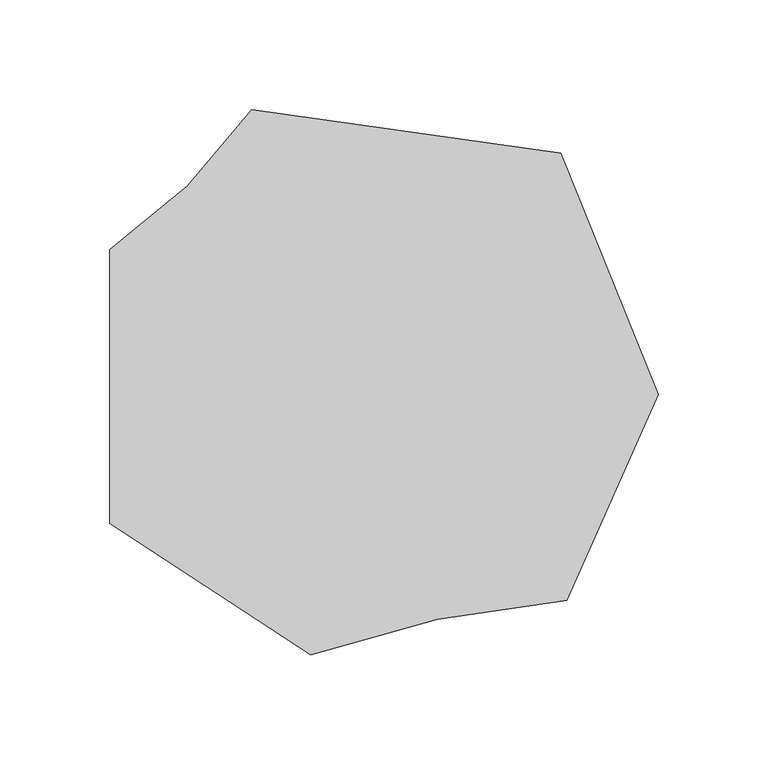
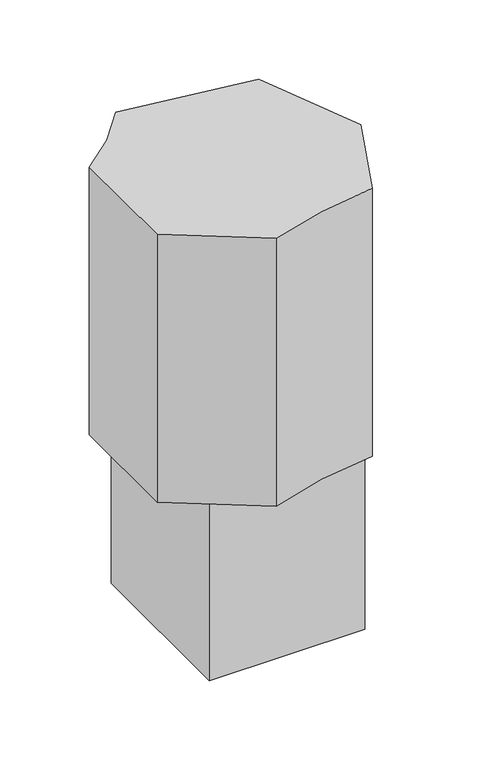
"""IFC4 building model written with IfcOpenShell, lengths in millimetres: furniture geometry, Norr11 - Quartz Table : Norr11 - Quartz Table."""

from ifc_helpers import new_model, si_unit, point, frame, frame_2d, origin, origin_with_axes, place, context, project, spatial, polyline, circle_curve, trimmed, segment, composite_curve, outline, extrude, source, transform, mapped, element, save


def furniture_6fb1302f(model_context):
    return source(origin(), model_context, "Body", "SweptSolid", [
        extrude(outline(composite_curve([segment(trimmed(circle_curve(frame_2d((833.1001509, 344.3353988)), 790.0285553), [point((80.492051, 104.0726963))], [point((124.8186931, -5.639593))], True, "CARTESIAN"), True, "CONTINUOUS"), segment(polyline([(124.8186931, -5.639593), (83.2384995, -99.4201688)]), True, "CONTINUOUS"), segment(trimmed(circle_curve(frame_2d((120.7133328, -561.7864366)), 463.8824514), [point((83.2384995, -99.4201688))], [point((-33.1130071, -124.151445))], True, "CARTESIAN"), True, "CONTINUOUS"), segment(polyline([(-33.1130071, -124.151445), (-124.5113932, -64.4347129)]), True, "CONTINUOUS"), segment(trimmed(circle_curve(frame_2d((-1503.8298895, -2.153796)), 1380.7238778), [point((-124.5113932, -64.4347129))], [point((-124.5113932, 60.1271209))], True, "CARTESIAN"), True, "CONTINUOUS"), segment(trimmed(circle_curve(frame_2d((-268.8495483, 271.1166992)), 255.6366663), [point((-124.5113932, 60.1271209))], [point((-59.9217306, 123.809971))], True, "CARTESIAN"), True, "CONTINUOUS"), segment(trimmed(circle_curve(frame_2d((104.5869334, 784.8175688)), 681.1711568), [point((-59.9217306, 123.809971))], [point((80.492051, 104.0726963))], True, "CARTESIAN"), True, "CONTINUOUS")], self_intersect=False)), frame((0.0, 0.0, 200.1855356), z_axis=(0.0, 0.0, 1.0), x_axis=(1.0, 0.0, 0.0)), (0.0, 0.0, 1.0), 299.8144644),
        extrude(outline(polyline([(81.7048697, 91.8214855), (81.7048697, -87.8432651), (-82.9878183, -87.8432651), (-82.9878183, 91.8214855), (81.7048697, 91.8214855)])), origin_with_axes(), (0.0, 0.0, 1.0), 200.1855356),
    ])


if __name__ == "__main__":
    model = new_model("IFC4")
    model_context = context("Model", 3, world=origin())
    ifc_project = project(units=[si_unit("LENGTHUNIT", "METRE", prefix="MILLI")], contexts=[model_context])
    site = spatial("IfcSite", under=ifc_project)
    building = spatial("IfcBuilding", under=site)
    placement = place(None, origin())
    furniture_shape = furniture_6fb1302f(model_context)
    element("IfcFurniture", 1, ObjectType="Norr11 - Quartz Table : Norr11 - Quartz Table", at=placement, inside=building, context=model_context, shape_type="MappedRepresentation", body=[
        mapped(furniture_shape, transform((0.0, 0.0, 0.0), x_axis=(1.0, 0.0, 0.0), y_axis=(0.0, 1.0, 0.0), z_axis=(0.0, 0.0, 1.0))),
    ])
    save(model, "model.ifc")
